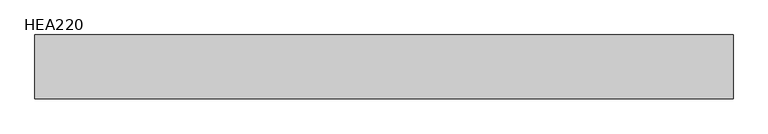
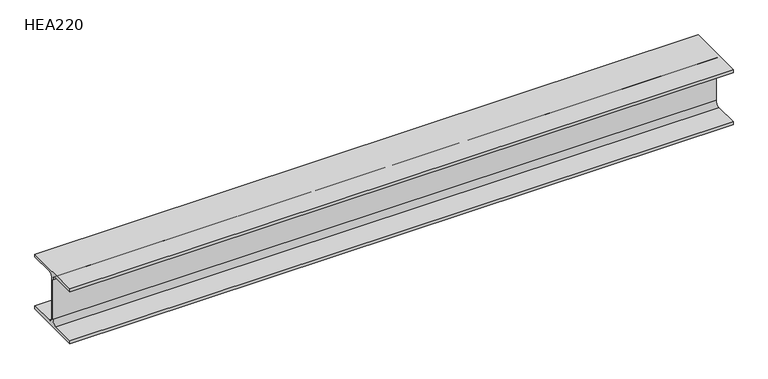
"""IFC4 building model written with IfcOpenShell, lengths in millimetres: beam geometry, HE-A : HEA220."""

from ifc_helpers import new_model, si_unit, point, frame, frame_2d, origin, place, context, project, spatial, polyline, circle_curve, trimmed, segment, composite_curve, outline, extrude, source, transform, mapped, element, save


def hea220_02838a77(model_context):
    return source(origin(), model_context, "Body", "SweptSolid", [
        extrude(outline(composite_curve([segment(polyline([(110.0, -94.0), (110.0, -105.0), (-110.0, -105.0), (-110.0, -94.0), (-21.5, -94.0)]), True, "CONTINUOUS"), segment(trimmed(circle_curve(frame_2d((-21.5, -76.0)), 18.0), [point((-21.5, -94.0))], [point((-3.5, -76.0))], True, "CARTESIAN"), True, "CONTINUOUS"), segment(polyline([(-3.5, -76.0), (-3.5, 76.0)]), True, "CONTINUOUS"), segment(trimmed(circle_curve(frame_2d((-21.5, 76.0)), 18.0), [point((-3.5, 76.0))], [point((-21.5, 94.0))], True, "CARTESIAN"), True, "CONTINUOUS"), segment(polyline([(-21.5, 94.0), (-110.0, 94.0), (-110.0, 105.0), (110.0, 105.0), (110.0, 94.0), (21.5, 94.0)]), True, "CONTINUOUS"), segment(trimmed(circle_curve(frame_2d((21.5, 76.0)), 18.0), [point((21.5, 94.0))], [point((3.5, 76.0))], True, "CARTESIAN"), True, "CONTINUOUS"), segment(polyline([(3.5, 76.0), (3.5, -76.0)]), True, "CONTINUOUS"), segment(trimmed(circle_curve(frame_2d((21.5, -76.0)), 18.0), [point((3.5, -76.0))], [point((21.5, -94.0))], True, "CARTESIAN"), True, "CONTINUOUS"), segment(polyline([(21.5, -94.0), (110.0, -94.0)]), True, "CONTINUOUS")], self_intersect=False)), frame((-1201.8, 0.0, 0.0), z_axis=(1.0, 0.0, 0.0), x_axis=(0.0, 1.0, 0.0)), (0.0, 0.0, 1.0), 2403.6),
    ])


if __name__ == "__main__":
    model = new_model("IFC4")
    model_context = context("Model", 3, world=origin())
    ifc_project = project(units=[si_unit("LENGTHUNIT", "METRE", prefix="MILLI")], contexts=[model_context])
    site = spatial("IfcSite", under=ifc_project)
    building = spatial("IfcBuilding", under=site)
    placement = place(None, origin())
    hea220_shape = hea220_02838a77(model_context)
    element("IfcBeam", 1, ObjectType="HE-A : HEA220", at=placement, inside=building, context=model_context, shape_type="MappedRepresentation", body=[
        mapped(hea220_shape, transform((0.0, 0.0, 0.0), x_axis=(1.0, 0.0, 0.0), y_axis=(0.0, 1.0, 0.0), z_axis=(0.0, 0.0, 1.0))),
    ])
    save(model, "model.ifc")
